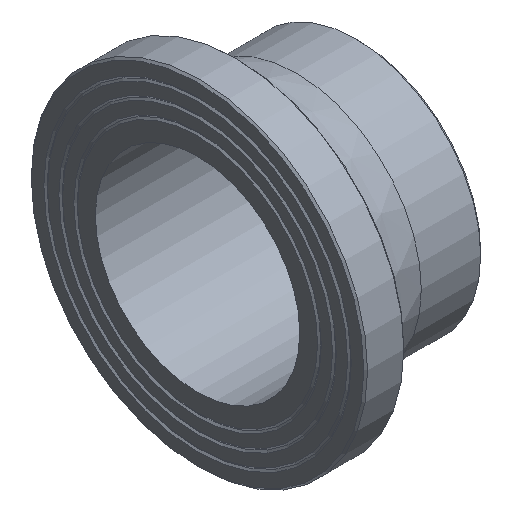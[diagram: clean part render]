
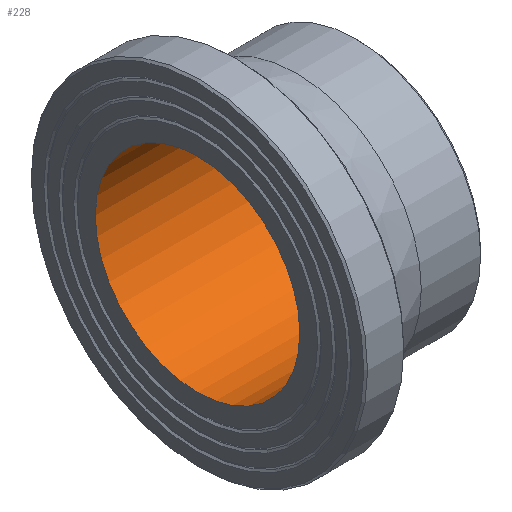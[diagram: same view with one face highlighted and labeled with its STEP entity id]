
A CAD part, isometric view. The second image highlights one B-rep face of the part: STEP entity #228.
In plain terms, the highlighted cylindrical face has radius 81.8 mm (diameter 163.6 mm), a full revolution.
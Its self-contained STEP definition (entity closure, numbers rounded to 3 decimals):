
#33=CYLINDRICAL_SURFACE('',#274,81.8);
#50=ORIENTED_EDGE('',*,*,#79,.F.);
#51=ORIENTED_EDGE('',*,*,#76,.T.);
#76=EDGE_CURVE('',#96,#96,#116,.T.);
#79=EDGE_CURVE('',#99,#99,#119,.T.);
#96=VERTEX_POINT('',#383);
#99=VERTEX_POINT('',#390);
#116=CIRCLE('',#257,81.8);
#119=CIRCLE('',#261,81.8);
#150=EDGE_LOOP('',(#50));
#151=EDGE_LOOP('',(#51));
#190=FACE_BOUND('',#150,.T.);
#191=FACE_BOUND('',#151,.T.);
#228=ADVANCED_FACE('',(#190,#191),#33,.F.);
#257=AXIS2_PLACEMENT_3D('',#382,#303,#304);
#261=AXIS2_PLACEMENT_3D('',#389,#311,#312);
#274=AXIS2_PLACEMENT_3D('',#410,#337,#338);
#303=DIRECTION('',(-1.,0.,0.));
#304=DIRECTION('',(0.,0.,1.));
#311=DIRECTION('',(-1.,0.,0.));
#312=DIRECTION('',(0.,0.,1.));
#337=DIRECTION('',(-1.,0.,0.));
#338=DIRECTION('',(0.,0.,1.));
#382=CARTESIAN_POINT('',(0.,0.,0.));
#383=CARTESIAN_POINT('',(0.,0.,81.8));
#389=CARTESIAN_POINT('',(129.,0.,0.));
#390=CARTESIAN_POINT('',(129.,0.,81.8));
#410=CARTESIAN_POINT('',(60.,0.,0.));
